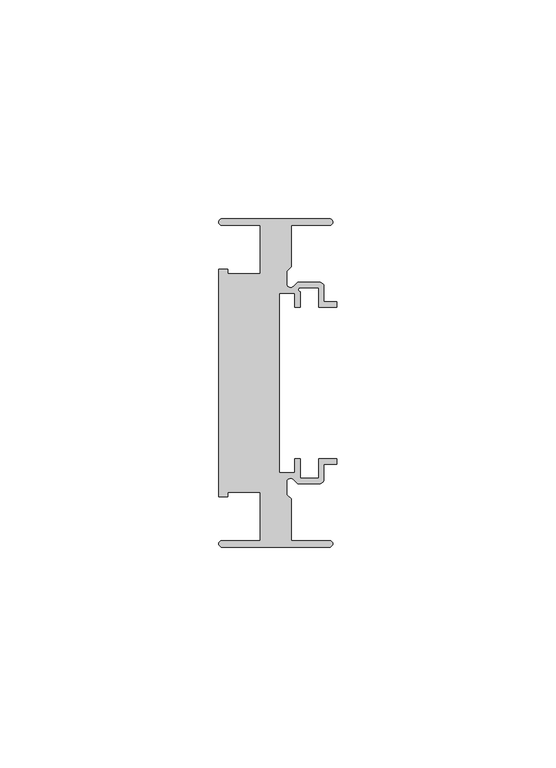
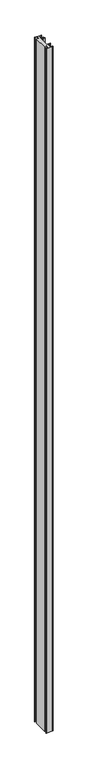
"""IFC4 building model written with IfcOpenShell, lengths in millimetres: member geometry, Прямоугольный импост : 7-AMG-2-Профиль 26Х75 Верх П."""

from ifc_helpers import new_model, si_unit, point, frame, frame_2d, origin, place, context, project, spatial, polyline, circle_curve, trimmed, segment, composite_curve, outline, extrude, source, transform, mapped, element, save


def member_93e2901d(model_context):
    return source(origin(), model_context, "Body", "SweptSolid", [
        extrude(outline(composite_curve([segment(polyline([(-1.7, -37.5), (-26.25, -37.5)]), True, "CONTINUOUS"), segment(trimmed(circle_curve(frame_2d((-26.25, -36.75)), 0.75), [point((-26.25, -37.5))], [point((-26.25, -36.0))], False, "CARTESIAN"), True, "CONTINUOUS"), segment(polyline([(-26.25, -36.0), (-17.5, -36.0), (-17.5, -25.0), (-24.9359877, -25.0), (-24.9359877, -26.0), (-27.0, -26.0), (-27.0, 26.0), (-24.9359877, 26.0), (-24.9359877, 25.0), (-17.5, 25.0), (-17.5, 36.0), (-26.25, 36.0)]), True, "CONTINUOUS"), segment(trimmed(circle_curve(frame_2d((-26.25, 36.75)), 0.75), [point((-26.25, 36.0))], [point((-26.25, 37.5))], False, "CARTESIAN"), True, "CONTINUOUS"), segment(polyline([(-26.25, 37.5), (-1.7, 37.5)]), True, "CONTINUOUS"), segment(trimmed(circle_curve(frame_2d((-1.7, 36.75)), 0.75), [point((-1.7, 37.5))], [point((-1.7, 36.0))], False, "CARTESIAN"), True, "CONTINUOUS"), segment(polyline([(-1.7, 36.0), (-10.5, 36.0), (-10.5, 26.5029437), (-11.5, 25.5029437), (-11.5, 22.6727922)]), True, "CONTINUOUS"), segment(trimmed(circle_curve(frame_2d((-10.6, 22.6727922)), 0.9), [point((-11.5, 22.6727922))], [point((-9.9636039, 22.0363961))], True, "CARTESIAN"), True, "CONTINUOUS"), segment(polyline([(-9.9636039, 22.0363961), (-9.0, 23.0), (-4.0, 23.0)]), True, "CONTINUOUS"), segment(trimmed(circle_curve(frame_2d((-4.0, 22.0)), 1.0), [point((-4.0, 23.0))], [point((-3.0, 22.0))], False, "CARTESIAN"), True, "CONTINUOUS"), segment(polyline([(-3.0, 22.0), (-3.0, 18.55), (0.0, 18.55), (0.0, 17.35), (-4.2, 17.35), (-4.2, 21.8), (-8.5029437, 21.8)]), True, "CONTINUOUS"), segment(trimmed(circle_curve(frame_2d((-8.3343131, 21.3314262)), 0.4979937), [point((-8.5029437, 21.8))], [point((-8.45, 20.8470563))], True, "CARTESIAN"), True, "CONTINUOUS"), segment(polyline([(-8.45, 20.8470563), (-8.45, 17.35), (-9.65, 17.35), (-9.65, 20.55), (-13.15, 20.55), (-13.15, -20.55), (-9.65, -20.55), (-9.65, -17.35), (-8.45, -17.35), (-8.45, -21.8), (-4.2, -21.8), (-4.2, -17.35), (0.0, -17.35), (0.0, -18.55), (-3.0, -18.55), (-3.0, -22.0)]), True, "CONTINUOUS"), segment(trimmed(circle_curve(frame_2d((-4.0, -22.0)), 1.0), [point((-3.0, -22.0))], [point((-4.0, -23.0))], False, "CARTESIAN"), True, "CONTINUOUS"), segment(polyline([(-4.0, -23.0), (-9.0, -23.0), (-9.9636039, -22.0363961)]), True, "CONTINUOUS"), segment(trimmed(circle_curve(frame_2d((-10.6, -22.6727922)), 0.9), [point((-9.9636039, -22.0363961))], [point((-11.5, -22.6727922))], True, "CARTESIAN"), True, "CONTINUOUS"), segment(polyline([(-11.5, -22.6727922), (-11.5, -25.5029437), (-10.5, -26.5029437), (-10.5, -36.0), (-1.7, -36.0)]), True, "CONTINUOUS"), segment(trimmed(circle_curve(frame_2d((-1.7, -36.75)), 0.75), [point((-1.7, -36.0))], [point((-1.7, -37.5))], False, "CARTESIAN"), True, "CONTINUOUS")], self_intersect=False)), frame((0.0, 0.0, -2746.0), z_axis=(0.0, 0.0, 1.0), x_axis=(1.0, 0.0, 0.0)), (0.0, 0.0, 1.0), 2746.0),
    ])


if __name__ == "__main__":
    model = new_model("IFC4")
    model_context = context("Model", 3, world=origin())
    ifc_project = project(units=[si_unit("LENGTHUNIT", "METRE", prefix="MILLI")], contexts=[model_context])
    site = spatial("IfcSite", under=ifc_project)
    building = spatial("IfcBuilding", under=site)
    placement = place(None, origin())
    member_shape = member_93e2901d(model_context)
    element("IfcMember", 1, ObjectType="Прямоугольный импост : 7-AMG-2-Профиль 26Х75 Верх П", at=placement, inside=building, context=model_context, shape_type="MappedRepresentation", body=[
        mapped(member_shape, transform((0.0, 0.0, 0.0), x_axis=(1.0, 0.0, 0.0), y_axis=(0.0, 1.0, 0.0), z_axis=(0.0, 0.0, 1.0))),
    ])
    save(model, "model.ifc")
